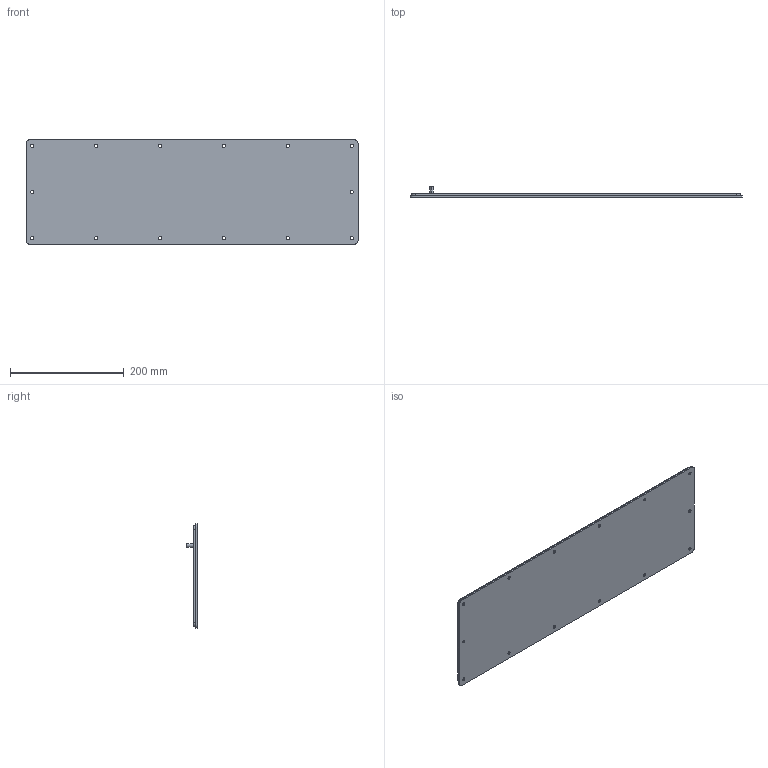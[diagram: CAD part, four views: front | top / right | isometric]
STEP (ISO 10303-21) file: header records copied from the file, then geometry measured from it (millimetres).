
FILE_DESCRIPTION (( 'STEP AP203' ), '1' );
FILE_NAME ('27206.step', '2014-03-07T07:47:36', ( '' ), ( '' ), 'SwSTEP 2.0', 'SolidWorks 2010', '' );
FILE_SCHEMA (( 'CONFIG_CONTROL_DESIGN' ));
Length unit declared in the file: inch
Products named in the file (7): 27206; 89106506; 89106498; 99401225; 89106489_default; 89075038; 87780048
Assembly tree (6 placements, depth 4):
  27206
    87780048
    89106506
      89075038
      89106498
        99401225
        89106489_default
Bounding box: 583.57 x 18.46 x 183.51 mm (x, y, z)
Volume: 370486.2 mm3; surface area: 286131.4 mm2
Topology: 4 solids, 4 shells, 103 faces, 280 edges, 186 vertices
Faces by surface type: cylinder 74, plane 25, cone 2, torus 2
Entity records: 4213 total; most frequent: DIRECTION 664, CARTESIAN_POINT 580, ORIENTED_EDGE 560, EDGE_CURVE 280, AXIS2_PLACEMENT_3D 270, VERTEX_POINT 186, EDGE_LOOP 162, CIRCLE 156
